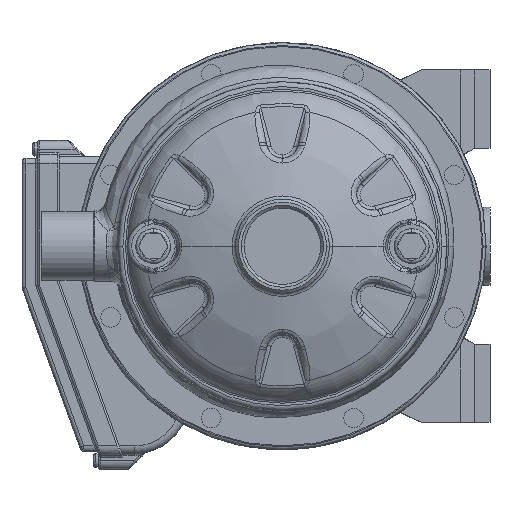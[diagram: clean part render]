
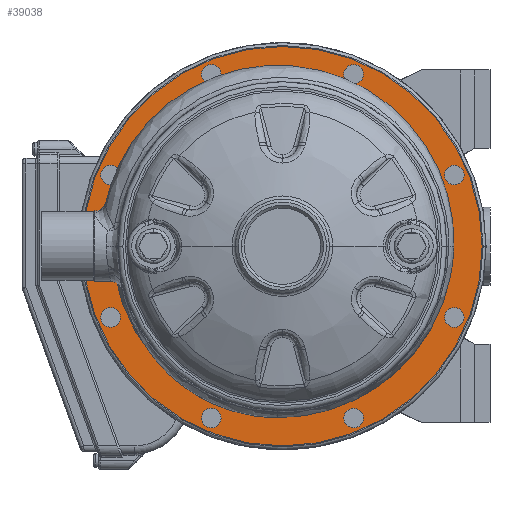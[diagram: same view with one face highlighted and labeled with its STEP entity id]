
A CAD part, left-side view. The second image highlights one B-rep face of the part: STEP entity #39038.
In plain terms, the highlighted planar face has unit normal (-1, 0, 0).
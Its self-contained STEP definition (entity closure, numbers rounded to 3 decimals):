
#30496=CARTESIAN_POINT('',(33.5,0.,
0.));
#30497=DIRECTION('',(1.,0.,0.));
#30498=DIRECTION('',(0.,-1.,0.));
#30499=AXIS2_PLACEMENT_3D('',#30496,#30497,#30498);
#30504=CARTESIAN_POINT('',(33.5,0.,
0.));
#30505=DIRECTION('',(1.,0.,0.));
#30506=DIRECTION('',(0.,1.,0.));
#30507=AXIS2_PLACEMENT_3D('',#30504,#30505,#30506);
#30512=CARTESIAN_POINT('',(33.5,0.,0.));
#30513=DIRECTION('',(-1.,0.,0.));
#30514=DIRECTION('',(0.,1.,0.));
#30515=AXIS2_PLACEMENT_3D('',#30512,#30513,#30514);
#30520=CARTESIAN_POINT('',(33.5,0.,0.));
#30521=DIRECTION('',(-1.,0.,0.));
#30522=DIRECTION('',(0.,-1.,0.));
#30523=AXIS2_PLACEMENT_3D('',#30520,#30521,#30522);
#30528=CARTESIAN_POINT('',(33.5,87.769,36.355));
#30529=DIRECTION('',(-1.,0.,0.));
#30530=DIRECTION('',(0.,0.,1.));
#30531=AXIS2_PLACEMENT_3D('',#30528,#30529,#30530);
#30536=CARTESIAN_POINT('',(33.5,87.769,36.355));
#30537=DIRECTION('',(-1.,0.,0.));
#30538=DIRECTION('',(0.,0.,-1.));
#30539=AXIS2_PLACEMENT_3D('',#30536,#30537,#30538);
#30544=CARTESIAN_POINT('',(33.5,36.355,87.769));
#30545=DIRECTION('',(-1.,0.,0.));
#30546=DIRECTION('',(0.,-0.707,0.707));
#30547=AXIS2_PLACEMENT_3D('',#30544,#30545,#30546);
#30552=CARTESIAN_POINT('',(33.5,36.355,87.769));
#30553=DIRECTION('',(-1.,0.,0.));
#30554=DIRECTION('',(0.,0.707,-0.707));
#30555=AXIS2_PLACEMENT_3D('',#30552,#30553,#30554);
#30560=CARTESIAN_POINT('',(33.5,-36.355,87.769));
#30561=DIRECTION('',(-1.,0.,0.));
#30562=DIRECTION('',(0.,-1.,0.));
#30563=AXIS2_PLACEMENT_3D('',#30560,#30561,#30562);
#30568=CARTESIAN_POINT('',(33.5,-36.355,87.769));
#30569=DIRECTION('',(-1.,0.,0.));
#30570=DIRECTION('',(0.,1.,0.));
#30571=AXIS2_PLACEMENT_3D('',#30568,#30569,#30570);
#30576=CARTESIAN_POINT('',(33.5,-87.769,36.355));
#30577=DIRECTION('',(-1.,0.,0.));
#30578=DIRECTION('',(0.,-0.707,-0.707));
#30579=AXIS2_PLACEMENT_3D('',#30576,#30577,#30578);
#30584=CARTESIAN_POINT('',(33.5,-87.769,36.355));
#30585=DIRECTION('',(-1.,0.,0.));
#30586=DIRECTION('',(0.,0.707,0.707));
#30587=AXIS2_PLACEMENT_3D('',#30584,#30585,#30586);
#30592=CARTESIAN_POINT('',(33.5,-87.769,-36.355));
#30593=DIRECTION('',(-1.,0.,0.));
#30594=DIRECTION('',(0.,0.,-1.));
#30595=AXIS2_PLACEMENT_3D('',#30592,#30593,#30594);
#30600=CARTESIAN_POINT('',(33.5,-87.769,-36.355));
#30601=DIRECTION('',(-1.,0.,0.));
#30602=DIRECTION('',(0.,0.,1.));
#30603=AXIS2_PLACEMENT_3D('',#30600,#30601,#30602);
#30608=CARTESIAN_POINT('',(33.5,-36.355,-87.769));
#30609=DIRECTION('',(-1.,0.,0.));
#30610=DIRECTION('',(0.,0.707,-0.707));
#30611=AXIS2_PLACEMENT_3D('',#30608,#30609,#30610);
#30616=CARTESIAN_POINT('',(33.5,-36.355,-87.769));
#30617=DIRECTION('',(-1.,0.,0.));
#30618=DIRECTION('',(0.,-0.707,0.707));
#30619=AXIS2_PLACEMENT_3D('',#30616,#30617,#30618);
#30624=CARTESIAN_POINT('',(33.5,36.355,-87.769));
#30625=DIRECTION('',(-1.,0.,0.));
#30626=DIRECTION('',(0.,1.,0.));
#30627=AXIS2_PLACEMENT_3D('',#30624,#30625,#30626);
#30632=CARTESIAN_POINT('',(33.5,36.355,-87.769));
#30633=DIRECTION('',(-1.,0.,0.));
#30634=DIRECTION('',(0.,-1.,0.));
#30635=AXIS2_PLACEMENT_3D('',#30632,#30633,#30634);
#30640=CARTESIAN_POINT('',(33.5,87.769,-36.355));
#30641=DIRECTION('',(-1.,0.,0.));
#30642=DIRECTION('',(0.,0.707,0.707));
#30643=AXIS2_PLACEMENT_3D('',#30640,#30641,#30642);
#30648=CARTESIAN_POINT('',(33.5,87.769,-36.355));
#30649=DIRECTION('',(-1.,0.,0.));
#30650=DIRECTION('',(0.,-0.707,-0.707));
#30651=AXIS2_PLACEMENT_3D('',#30648,#30649,#30650);
#38270=CARTESIAN_POINT('',(33.5,-86.8,
0.));
#38271=CARTESIAN_POINT('',(33.5,86.8,
0.));
#38272=VERTEX_POINT('',#38270);
#38273=VERTEX_POINT('',#38271);
#38274=CARTESIAN_POINT('',(33.5,102.,0.));
#38275=CARTESIAN_POINT('',(33.5,-102.,0.));
#38276=VERTEX_POINT('',#38274);
#38277=VERTEX_POINT('',#38275);
#38294=CARTESIAN_POINT('',(33.5,87.769,41.355));
#38295=CARTESIAN_POINT('',(33.5,87.769,31.355));
#38296=VERTEX_POINT('',#38294);
#38297=VERTEX_POINT('',#38295);
#38326=CARTESIAN_POINT('',(33.5,32.819,91.304));
#38327=VERTEX_POINT('',#38326);
#38328=CARTESIAN_POINT('',(33.5,39.89,84.233));
#38329=VERTEX_POINT('',#38328);
#38342=CARTESIAN_POINT('',(33.5,-41.355,87.769));
#38343=VERTEX_POINT('',#38342);
#38344=CARTESIAN_POINT('',(33.5,-31.355,87.769));
#38345=VERTEX_POINT('',#38344);
#38358=CARTESIAN_POINT('',(33.5,-91.304,32.819));
#38359=VERTEX_POINT('',#38358);
#38360=CARTESIAN_POINT('',(33.5,-84.233,39.89));
#38361=VERTEX_POINT('',#38360);
#38374=CARTESIAN_POINT('',(33.5,-87.769,-41.355));
#38375=VERTEX_POINT('',#38374);
#38376=CARTESIAN_POINT('',(33.5,-87.769,-31.355));
#38377=VERTEX_POINT('',#38376);
#38390=CARTESIAN_POINT('',(33.5,-32.819,-91.304));
#38391=VERTEX_POINT('',#38390);
#38392=CARTESIAN_POINT('',(33.5,-39.89,-84.233));
#38393=VERTEX_POINT('',#38392);
#38406=CARTESIAN_POINT('',(33.5,41.355,-87.769));
#38407=VERTEX_POINT('',#38406);
#38408=CARTESIAN_POINT('',(33.5,31.355,-87.769));
#38409=VERTEX_POINT('',#38408);
#38422=CARTESIAN_POINT('',(33.5,91.304,-32.819));
#38423=VERTEX_POINT('',#38422);
#38424=CARTESIAN_POINT('',(33.5,84.233,-39.89));
#38425=VERTEX_POINT('',#38424);
#38974=CARTESIAN_POINT('',(33.5,0.,0.));
#38975=DIRECTION('',(1.,0.,0.));
#38976=DIRECTION('',(0.,-1.,0.));
#38977=AXIS2_PLACEMENT_3D('',#38974,#38975,#38976);
#38978=PLANE('',#38977);
#38980=ORIENTED_EDGE('',*,*,#38979,.F.);
#38981=ORIENTED_EDGE('',*,*,#38964,.F.);
#38982=EDGE_LOOP('',(#38980,#38981));
#38983=FACE_OUTER_BOUND('',#38982,.F.);
#38985=ORIENTED_EDGE('',*,*,#38984,.F.);
#38987=ORIENTED_EDGE('',*,*,#38986,.F.);
#38988=EDGE_LOOP('',(#38985,#38987));
#38989=FACE_BOUND('',#38988,.F.);
#38991=ORIENTED_EDGE('',*,*,#38990,.T.);
#38993=ORIENTED_EDGE('',*,*,#38992,.T.);
#38994=EDGE_LOOP('',(#38991,#38993));
#38995=FACE_BOUND('',#38994,.F.);
#38997=ORIENTED_EDGE('',*,*,#38996,.T.);
#38999=ORIENTED_EDGE('',*,*,#38998,.T.);
#39000=EDGE_LOOP('',(#38997,#38999));
#39001=FACE_BOUND('',#39000,.F.);
#39003=ORIENTED_EDGE('',*,*,#39002,.T.);
#39005=ORIENTED_EDGE('',*,*,#39004,.T.);
#39006=EDGE_LOOP('',(#39003,#39005));
#39007=FACE_BOUND('',#39006,.F.);
#39009=ORIENTED_EDGE('',*,*,#39008,.T.);
#39011=ORIENTED_EDGE('',*,*,#39010,.T.);
#39012=EDGE_LOOP('',(#39009,#39011));
#39013=FACE_BOUND('',#39012,.F.);
#39015=ORIENTED_EDGE('',*,*,#39014,.T.);
#39017=ORIENTED_EDGE('',*,*,#39016,.T.);
#39018=EDGE_LOOP('',(#39015,#39017));
#39019=FACE_BOUND('',#39018,.F.);
#39021=ORIENTED_EDGE('',*,*,#39020,.T.);
#39023=ORIENTED_EDGE('',*,*,#39022,.T.);
#39024=EDGE_LOOP('',(#39021,#39023));
#39025=FACE_BOUND('',#39024,.F.);
#39027=ORIENTED_EDGE('',*,*,#39026,.T.);
#39029=ORIENTED_EDGE('',*,*,#39028,.T.);
#39030=EDGE_LOOP('',(#39027,#39029));
#39031=FACE_BOUND('',#39030,.F.);
#39033=ORIENTED_EDGE('',*,*,#39032,.T.);
#39035=ORIENTED_EDGE('',*,*,#39034,.T.);
#39036=EDGE_LOOP('',(#39033,#39035));
#39037=FACE_BOUND('',#39036,.F.);
#30500=CIRCLE('',#30499,86.8);
#30508=CIRCLE('',#30507,86.8);
#30516=CIRCLE('',#30515,102.);
#30524=CIRCLE('',#30523,102.);
#30532=CIRCLE('',#30531,5.);
#30540=CIRCLE('',#30539,5.);
#30548=CIRCLE('',#30547,5.);
#30556=CIRCLE('',#30555,5.);
#30564=CIRCLE('',#30563,5.);
#30572=CIRCLE('',#30571,5.);
#30580=CIRCLE('',#30579,5.);
#30588=CIRCLE('',#30587,5.);
#30596=CIRCLE('',#30595,5.);
#30604=CIRCLE('',#30603,5.);
#30612=CIRCLE('',#30611,5.);
#30620=CIRCLE('',#30619,5.);
#30628=CIRCLE('',#30627,5.);
#30636=CIRCLE('',#30635,5.);
#30644=CIRCLE('',#30643,5.);
#30652=CIRCLE('',#30651,5.);
#38964=EDGE_CURVE('',#38277,#38276,#30524,.T.);
#38979=EDGE_CURVE('',#38276,#38277,#30516,.T.);
#38984=EDGE_CURVE('',#38272,#38273,#30500,.T.);
#38986=EDGE_CURVE('',#38273,#38272,#30508,.T.);
#38990=EDGE_CURVE('',#38296,#38297,#30532,.T.);
#38992=EDGE_CURVE('',#38297,#38296,#30540,.T.);
#38996=EDGE_CURVE('',#38327,#38329,#30548,.T.);
#38998=EDGE_CURVE('',#38329,#38327,#30556,.T.);
#39002=EDGE_CURVE('',#38343,#38345,#30564,.T.);
#39004=EDGE_CURVE('',#38345,#38343,#30572,.T.);
#39008=EDGE_CURVE('',#38359,#38361,#30580,.T.);
#39010=EDGE_CURVE('',#38361,#38359,#30588,.T.);
#39014=EDGE_CURVE('',#38375,#38377,#30596,.T.);
#39016=EDGE_CURVE('',#38377,#38375,#30604,.T.);
#39020=EDGE_CURVE('',#38391,#38393,#30612,.T.);
#39022=EDGE_CURVE('',#38393,#38391,#30620,.T.);
#39026=EDGE_CURVE('',#38407,#38409,#30628,.T.);
#39028=EDGE_CURVE('',#38409,#38407,#30636,.T.);
#39032=EDGE_CURVE('',#38423,#38425,#30644,.T.);
#39034=EDGE_CURVE('',#38425,#38423,#30652,.T.);
#39038=ADVANCED_FACE('',(#38983,#38989,#38995,#39001,#39007,#39013,#39019,
#39025,#39031,#39037),#38978,.F.);
